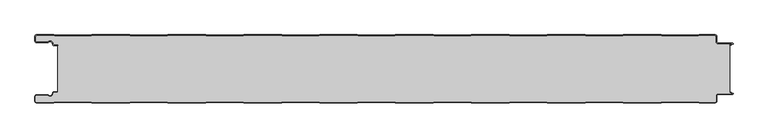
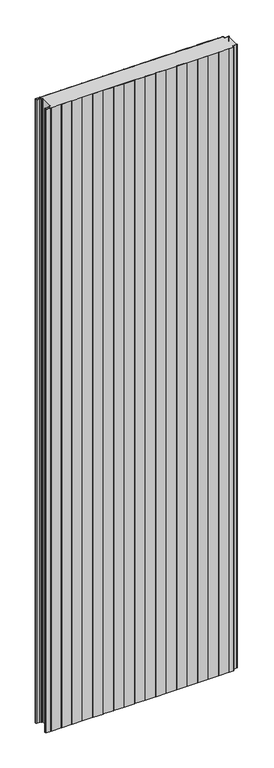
"""IFC4 building model written with IfcOpenShell, lengths in millimetres: plate geometry, ACH_Panel-Frigorífico_PUR-PIR : ACH_Panel-Frigorífico-PIR_100mm."""

from ifc_helpers import new_model, si_unit, point, frame_2d, origin, origin_with_axes, place, context, project, spatial, polyline, circle_curve, trimmed, segment, composite_curve, outline, extrude, source, transform, mapped, element, save


def plate_281635d9(model_context):
    return source(origin(), model_context, "Body", "SweptSolid", [
        extrude(outline(composite_curve([segment(trimmed(circle_curve(frame_2d((-497.49499, -9.0180361)), 2.50501), [point((-497.49499, -11.5230461))], [point((-500.0, -9.0180361))], False, "CARTESIAN"), True, "CONTINUOUS"), segment(polyline([(-500.0, -9.0180361), (-500.0, -2.50501)]), True, "CONTINUOUS"), segment(trimmed(circle_curve(frame_2d((-497.49499, -2.50501)), 2.50501), [point((-500.0, -2.50501))], [point((-497.49499, 0.0))], False, "CARTESIAN"), True, "CONTINUOUS"), segment(polyline([(-497.49499, 0.0), (-472.2103007, 0.0), (-471.028188, -0.6012024), (-417.6391467, -0.6012024), (-416.457034, 0.0), (-360.8776353, 0.0), (-359.6955227, -0.6012024), (-306.3064814, -0.6012024), (-305.1243687, 0.0), (-249.54497, 0.0), (-248.3628573, -0.6012024), (-194.973816, -0.6012024), (-193.7917033, 0.0), (-138.2123047, 0.0), (-137.030192, -0.6012024), (-83.6411507, -0.6012024), (-82.459038, 0.0), (-26.8796393, 0.0), (-25.6975267, -0.6012024), (27.6915146, -0.6012024), (28.8736273, 0.0), (84.453026, 0.0), (85.6351387, -0.6012024), (139.02418, -0.6012024), (140.2062927, 0.0), (195.7856913, 0.0), (196.967804, -0.6012024), (250.3568453, -0.6012024), (251.538958, 0.0), (307.1183566, 0.0), (308.3004693, -0.6012024), (361.6895106, -0.6012024), (362.8716233, 0.0), (418.451022, 0.0), (419.6331347, -0.6012024), (473.022176, -0.6012024), (474.2042886, 0.0), (497.49499, 0.0)]), True, "CONTINUOUS"), segment(trimmed(circle_curve(frame_2d((497.49499, -2.50501)), 2.50501), [point((497.49499, 0.0))], [point((500.0, -2.50501))], False, "CARTESIAN"), True, "CONTINUOUS"), segment(polyline([(500.0, -2.50501), (500.0, -10.0200401)]), True, "CONTINUOUS"), segment(trimmed(circle_curve(frame_2d((502.004008, -10.0200401)), 2.004008), [point((500.0, -10.0200401))], [point((502.004008, -12.0240481))], True, "CARTESIAN"), True, "CONTINUOUS"), segment(polyline([(502.004008, -12.0240481), (523.0460922, -12.0240481)]), True, "CONTINUOUS"), segment(trimmed(circle_curve(frame_2d((523.0460922, -13.0260521)), 1.002004), [point((523.0460922, -12.0240481))], [point((523.5470942, -13.893813))], False, "CARTESIAN"), True, "CONTINUOUS"), segment(polyline([(523.5470942, -13.893813), (519.5390782, -16.2078422), (519.1390782, -15.5150218), (522.183956, -13.7570608)]), True, "CONTINUOUS"), segment(trimmed(circle_curve(frame_2d((521.933956, -13.3240481)), 0.5), [point((522.183956, -13.7570608))], [point((521.933956, -12.8240481))], True, "CARTESIAN"), True, "CONTINUOUS"), segment(polyline([(521.933956, -12.8240481), (502.004008, -12.8240481)]), True, "CONTINUOUS"), segment(trimmed(circle_curve(frame_2d((502.004008, -10.0200401)), 2.804008), [point((502.004008, -12.8240481))], [point((499.2, -10.0200401))], False, "CARTESIAN"), True, "CONTINUOUS"), segment(polyline([(499.2, -10.0200401), (499.2, -2.50501)]), True, "CONTINUOUS"), segment(trimmed(circle_curve(frame_2d((497.49499, -2.50501)), 1.70501), [point((499.2, -2.50501))], [point((497.49499, -0.8))], True, "CARTESIAN"), True, "CONTINUOUS"), segment(polyline([(497.49499, -0.8), (474.396035, -0.8), (473.2139223, -1.4012024), (419.4413883, -1.4012024), (418.2592756, -0.8), (363.0633697, -0.8), (361.881257, -1.4012024), (308.108723, -1.4012024), (306.9266103, -0.8), (251.7307044, -0.8), (250.5485917, -1.4012024), (196.7760576, -1.4012024), (195.5939449, -0.8), (140.398039, -0.8), (139.2159263, -1.4012024), (85.4433923, -1.4012024), (84.2612796, -0.8), (29.0653737, -0.8), (27.883261, -1.4012024), (-25.889273, -1.4012024), (-27.0713857, -0.8), (-82.2672916, -0.8), (-83.4494043, -1.4012024), (-137.2219384, -1.4012024), (-138.4040511, -0.8), (-193.599957, -0.8), (-194.7820696, -1.4012024), (-248.5546037, -1.4012024), (-249.7367164, -0.8), (-304.9326223, -0.8), (-306.114735, -1.4012024), (-359.887269, -1.4012024), (-361.0693817, -0.8), (-416.2652876, -0.8), (-417.4474003, -1.4012024), (-471.2199344, -1.4012024), (-472.4020471, -0.8), (-497.49499, -0.8)]), True, "CONTINUOUS"), segment(trimmed(circle_curve(frame_2d((-497.49499, -2.50501)), 1.70501), [point((-497.49499, -0.8))], [point((-499.2, -2.50501))], True, "CARTESIAN"), True, "CONTINUOUS"), segment(polyline([(-499.2, -2.50501), (-499.2, -9.0180361)]), True, "CONTINUOUS"), segment(trimmed(circle_curve(frame_2d((-497.49499, -9.0180361)), 1.70501), [point((-499.2, -9.0180361))], [point((-497.49499, -10.7230461))], True, "CARTESIAN"), True, "CONTINUOUS"), segment(polyline([(-497.49499, -10.7230461), (-481.8173283, -10.7230461)]), True, "CONTINUOUS"), segment(trimmed(circle_curve(frame_2d((-481.8173283, -9.0180361)), 1.70501), [point((-481.8173283, -10.7230461))], [point((-480.6895701, -10.2967936))], True, "CARTESIAN"), True, "CONTINUOUS"), segment(trimmed(circle_curve(frame_2d((-477.8407481, -13.5270541)), 4.307014), [point((-480.6895701, -10.2967936))], [point((-473.7934788, -12.0539686))], False, "CARTESIAN"), True, "CONTINUOUS"), segment(polyline([(-473.7934788, -12.0539686), (-473.0450711, -14.1102019)]), True, "CONTINUOUS"), segment(trimmed(circle_curve(frame_2d((-471.4428858, -13.5270541)), 1.70501), [point((-473.0450711, -14.1102019))], [point((-471.4428858, -15.2320641))], True, "CARTESIAN"), True, "CONTINUOUS"), segment(polyline([(-471.4428858, -15.2320641), (-466.4328657, -15.2320641), (-466.4328657, -16.0320641), (-471.4428858, -16.0320641)]), True, "CONTINUOUS"), segment(trimmed(circle_curve(frame_2d((-471.4428858, -13.5270541)), 2.50501), [point((-471.4428858, -16.0320641))], [point((-473.7968252, -14.383818))], False, "CARTESIAN"), True, "CONTINUOUS"), segment(polyline([(-473.7968252, -14.383818), (-474.5452329, -12.3275847)]), True, "CONTINUOUS"), segment(trimmed(circle_curve(frame_2d((-477.8407481, -13.5270541)), 3.507014), [point((-474.5452329, -12.3275847))], [point((-480.1604199, -10.8967936))], True, "CARTESIAN"), True, "CONTINUOUS"), segment(trimmed(circle_curve(frame_2d((-481.8173283, -9.0180361)), 2.50501), [point((-480.1604199, -10.8967936))], [point((-481.8173283, -11.5230461))], False, "CARTESIAN"), True, "CONTINUOUS"), segment(polyline([(-481.8173283, -11.5230461), (-497.49499, -11.5230461)]), True, "CONTINUOUS")], self_intersect=False)), origin_with_axes(), (0.0, 0.0, 1.0), 3500.0),
        extrude(outline(composite_curve([segment(trimmed(circle_curve(frame_2d((-471.4428858, -13.5270541)), 1.70501), [point((-471.4428858, -15.2320641))], [point((-473.0450711, -14.1102019))], False, "CARTESIAN"), True, "CONTINUOUS"), segment(polyline([(-473.0450711, -14.1102019), (-473.7934788, -12.0539686)]), True, "CONTINUOUS"), segment(trimmed(circle_curve(frame_2d((-477.8407481, -13.5270541)), 4.307014), [point((-473.7934788, -12.0539686))], [point((-480.6895701, -10.2967936))], True, "CARTESIAN"), True, "CONTINUOUS"), segment(trimmed(circle_curve(frame_2d((-481.8173283, -9.0180361)), 1.70501), [point((-480.6895701, -10.2967936))], [point((-481.8173283, -10.7230461))], False, "CARTESIAN"), True, "CONTINUOUS"), segment(polyline([(-481.8173283, -10.7230461), (-497.49499, -10.7230461)]), True, "CONTINUOUS"), segment(trimmed(circle_curve(frame_2d((-497.49499, -9.0180361)), 1.70501), [point((-497.49499, -10.7230461))], [point((-499.2, -9.0180361))], False, "CARTESIAN"), True, "CONTINUOUS"), segment(polyline([(-499.2, -9.0180361), (-499.2, -2.50501)]), True, "CONTINUOUS"), segment(trimmed(circle_curve(frame_2d((-497.49499, -2.50501)), 1.70501), [point((-499.2, -2.50501))], [point((-497.49499, -0.8))], False, "CARTESIAN"), True, "CONTINUOUS"), segment(polyline([(-497.49499, -0.8), (-472.4020471, -0.8), (-471.2199344, -1.4012024), (-417.4474003, -1.4012024), (-416.2652876, -0.8), (-361.0693817, -0.8), (-359.887269, -1.4012024), (-306.114735, -1.4012024), (-304.9326223, -0.8), (-249.7367164, -0.8), (-248.5546037, -1.4012024), (-194.7820696, -1.4012024), (-193.599957, -0.8), (-138.4040511, -0.8), (-137.2219384, -1.4012024), (-83.4494043, -1.4012024), (-82.2672916, -0.8), (-27.0713857, -0.8), (-25.889273, -1.4012024), (27.883261, -1.4012024), (29.0653737, -0.8), (84.2612796, -0.8), (85.4433923, -1.4012024), (139.2159263, -1.4012024), (140.398039, -0.8), (195.5939449, -0.8), (196.7760576, -1.4012024), (250.5485917, -1.4012024), (251.7307044, -0.8), (306.9266103, -0.8), (308.108723, -1.4012024), (361.881257, -1.4012024), (363.0633697, -0.8), (418.2592756, -0.8), (419.4413883, -1.4012024), (473.2139223, -1.4012024), (474.396035, -0.8), (497.49499, -0.8)]), True, "CONTINUOUS"), segment(trimmed(circle_curve(frame_2d((497.49499, -2.50501)), 1.70501), [point((497.49499, -0.8))], [point((499.2, -2.50501))], False, "CARTESIAN"), True, "CONTINUOUS"), segment(polyline([(499.2, -2.50501), (499.2, -10.0200401)]), True, "CONTINUOUS"), segment(trimmed(circle_curve(frame_2d((502.004008, -10.0200401)), 2.804008), [point((499.2, -10.0200401))], [point((502.004008, -12.8240481))], True, "CARTESIAN"), True, "CONTINUOUS"), segment(polyline([(502.004008, -12.8240481), (521.933956, -12.8240481)]), True, "CONTINUOUS"), segment(trimmed(circle_curve(frame_2d((521.933956, -13.3240481)), 0.5), [point((521.933956, -12.8240481))], [point((522.183956, -13.7570608))], False, "CARTESIAN"), True, "CONTINUOUS"), segment(polyline([(522.183956, -13.7570608), (519.1390782, -15.5150218), (519.1390782, -84.4849782), (522.183956, -86.2429392)]), True, "CONTINUOUS"), segment(trimmed(circle_curve(frame_2d((521.933956, -86.6759519)), 0.5), [point((522.183956, -86.2429392))], [point((521.933956, -87.1759519))], False, "CARTESIAN"), True, "CONTINUOUS"), segment(polyline([(521.933956, -87.1759519), (502.004008, -87.1759519)]), True, "CONTINUOUS"), segment(trimmed(circle_curve(frame_2d((502.004008, -89.9799599)), 2.804008), [point((502.004008, -87.1759519))], [point((499.2, -89.9799599))], True, "CARTESIAN"), True, "CONTINUOUS"), segment(polyline([(499.2, -89.9799599), (499.2, -97.49499)]), True, "CONTINUOUS"), segment(trimmed(circle_curve(frame_2d((497.49499, -97.49499)), 1.70501), [point((499.2, -97.49499))], [point((497.49499, -99.2))], False, "CARTESIAN"), True, "CONTINUOUS"), segment(polyline([(497.49499, -99.2), (474.396035, -99.2), (473.2139223, -98.5987976), (419.4413883, -98.5987976), (418.2592756, -99.2), (363.0633697, -99.2), (361.881257, -98.5987976), (308.108723, -98.5987976), (306.9266103, -99.2), (251.7307044, -99.2), (250.5485917, -98.5987976), (196.7760576, -98.5987976), (195.5939449, -99.2), (140.398039, -99.2), (139.2159263, -98.5987976), (85.4433923, -98.5987976), (84.2612796, -99.2), (29.0653737, -99.2), (27.883261, -98.5987976), (-25.889273, -98.5987976), (-27.0713857, -99.2), (-82.2672916, -99.2), (-83.4494043, -98.5987976), (-137.2219384, -98.5987976), (-138.4040511, -99.2), (-193.599957, -99.2), (-194.7820696, -98.5987976), (-248.5546037, -98.5987976), (-249.7367164, -99.2), (-304.9326223, -99.2), (-306.114735, -98.5987976), (-359.887269, -98.5987976), (-361.0693817, -99.2), (-416.2652876, -99.2), (-417.4474003, -98.5987976), (-471.2199344, -98.5987976), (-472.4020471, -99.2), (-497.49499, -99.2)]), True, "CONTINUOUS"), segment(trimmed(circle_curve(frame_2d((-497.49499, -97.49499)), 1.70501), [point((-497.49499, -99.2))], [point((-499.2, -97.49499))], False, "CARTESIAN"), True, "CONTINUOUS"), segment(polyline([(-499.2, -97.49499), (-499.2, -90.9819639)]), True, "CONTINUOUS"), segment(trimmed(circle_curve(frame_2d((-497.49499, -90.9819639)), 1.70501), [point((-499.2, -90.9819639))], [point((-497.49499, -89.2769539))], False, "CARTESIAN"), True, "CONTINUOUS"), segment(polyline([(-497.49499, -89.2769539), (-481.8173283, -89.2769539)]), True, "CONTINUOUS"), segment(trimmed(circle_curve(frame_2d((-481.8173283, -90.9819639)), 1.70501), [point((-481.8173283, -89.2769539))], [point((-480.6895701, -89.7032064))], False, "CARTESIAN"), True, "CONTINUOUS"), segment(trimmed(circle_curve(frame_2d((-477.8407481, -86.4729459)), 4.307014), [point((-480.6895701, -89.7032064))], [point((-473.7934788, -87.9460314))], True, "CARTESIAN"), True, "CONTINUOUS"), segment(polyline([(-473.7934788, -87.9460314), (-473.0450711, -85.8897981)]), True, "CONTINUOUS"), segment(trimmed(circle_curve(frame_2d((-471.4428858, -86.4729459)), 1.70501), [point((-473.0450711, -85.8897981))], [point((-471.4428858, -84.7679359))], False, "CARTESIAN"), True, "CONTINUOUS"), segment(polyline([(-471.4428858, -84.7679359), (-466.4328657, -84.7679359), (-466.4328657, -15.2320641), (-471.4428858, -15.2320641)]), True, "CONTINUOUS")], self_intersect=False)), origin_with_axes(), (0.0, 0.0, 1.0), 3500.0),
        extrude(outline(composite_curve([segment(polyline([(-497.49499, -88.4769539), (-481.8173283, -88.4769539)]), True, "CONTINUOUS"), segment(trimmed(circle_curve(frame_2d((-481.8173283, -90.9819639)), 2.50501), [point((-481.8173283, -88.4769539))], [point((-480.1604199, -89.1032064))], False, "CARTESIAN"), True, "CONTINUOUS"), segment(trimmed(circle_curve(frame_2d((-477.8407481, -86.4729459)), 3.507014), [point((-480.1604199, -89.1032064))], [point((-474.5452329, -87.6724153))], True, "CARTESIAN"), True, "CONTINUOUS"), segment(polyline([(-474.5452329, -87.6724153), (-473.7968252, -85.616182)]), True, "CONTINUOUS"), segment(trimmed(circle_curve(frame_2d((-471.4428858, -86.4729459)), 2.50501), [point((-473.7968252, -85.616182))], [point((-471.4428858, -83.9679359))], False, "CARTESIAN"), True, "CONTINUOUS"), segment(polyline([(-471.4428858, -83.9679359), (-466.4328657, -83.9679359), (-466.4328657, -84.7679359), (-471.4428858, -84.7679359)]), True, "CONTINUOUS"), segment(trimmed(circle_curve(frame_2d((-471.4428858, -86.4729459)), 1.70501), [point((-471.4428858, -84.7679359))], [point((-473.0450711, -85.8897981))], True, "CARTESIAN"), True, "CONTINUOUS"), segment(polyline([(-473.0450711, -85.8897981), (-473.7934788, -87.9460314)]), True, "CONTINUOUS"), segment(trimmed(circle_curve(frame_2d((-477.8407481, -86.4729459)), 4.307014), [point((-473.7934788, -87.9460314))], [point((-480.6895701, -89.7032064))], False, "CARTESIAN"), True, "CONTINUOUS"), segment(trimmed(circle_curve(frame_2d((-481.8173283, -90.9819639)), 1.70501), [point((-480.6895701, -89.7032064))], [point((-481.8173283, -89.2769539))], True, "CARTESIAN"), True, "CONTINUOUS"), segment(polyline([(-481.8173283, -89.2769539), (-497.49499, -89.2769539)]), True, "CONTINUOUS"), segment(trimmed(circle_curve(frame_2d((-497.49499, -90.9819639)), 1.70501), [point((-497.49499, -89.2769539))], [point((-499.2, -90.9819639))], True, "CARTESIAN"), True, "CONTINUOUS"), segment(polyline([(-499.2, -90.9819639), (-499.2, -97.49499)]), True, "CONTINUOUS"), segment(trimmed(circle_curve(frame_2d((-497.49499, -97.49499)), 1.70501), [point((-499.2, -97.49499))], [point((-497.49499, -99.2))], True, "CARTESIAN"), True, "CONTINUOUS"), segment(polyline([(-497.49499, -99.2), (-472.4020471, -99.2), (-471.2199344, -98.5987976), (-417.4474003, -98.5987976), (-416.2652876, -99.2), (-361.0693817, -99.2), (-359.887269, -98.5987976), (-306.114735, -98.5987976), (-304.9326223, -99.2), (-249.7367164, -99.2), (-248.5546037, -98.5987976), (-194.7820696, -98.5987976), (-193.599957, -99.2), (-138.4040511, -99.2), (-137.2219384, -98.5987976), (-83.4494043, -98.5987976), (-82.2672916, -99.2), (-27.0713857, -99.2), (-25.889273, -98.5987976), (27.883261, -98.5987976), (29.0653737, -99.2), (84.2612796, -99.2), (85.4433923, -98.5987976), (139.2159263, -98.5987976), (140.398039, -99.2), (195.5939449, -99.2), (196.7760576, -98.5987976), (250.5485917, -98.5987976), (251.7307044, -99.2), (306.9266103, -99.2), (308.108723, -98.5987976), (361.881257, -98.5987976), (363.0633697, -99.2), (418.2592756, -99.2), (419.4413883, -98.5987976), (473.2139223, -98.5987976), (474.396035, -99.2), (497.49499, -99.2)]), True, "CONTINUOUS"), segment(trimmed(circle_curve(frame_2d((497.49499, -97.49499)), 1.70501), [point((497.49499, -99.2))], [point((499.2, -97.49499))], True, "CARTESIAN"), True, "CONTINUOUS"), segment(polyline([(499.2, -97.49499), (499.2, -89.9799599)]), True, "CONTINUOUS"), segment(trimmed(circle_curve(frame_2d((502.004008, -89.9799599)), 2.804008), [point((499.2, -89.9799599))], [point((502.004008, -87.1759519))], False, "CARTESIAN"), True, "CONTINUOUS"), segment(polyline([(502.004008, -87.1759519), (521.933956, -87.1759519)]), True, "CONTINUOUS"), segment(trimmed(circle_curve(frame_2d((521.933956, -86.6759519)), 0.5), [point((521.933956, -87.1759519))], [point((522.183956, -86.2429392))], True, "CARTESIAN"), True, "CONTINUOUS"), segment(polyline([(522.183956, -86.2429392), (519.1390782, -84.4849782), (519.5390782, -83.7921578), (523.5470942, -86.106187)]), True, "CONTINUOUS"), segment(trimmed(circle_curve(frame_2d((523.0460922, -86.9739479)), 1.002004), [point((523.5470942, -86.106187))], [point((523.0460922, -87.9759519))], False, "CARTESIAN"), True, "CONTINUOUS"), segment(polyline([(523.0460922, -87.9759519), (502.004008, -87.9759519)]), True, "CONTINUOUS"), segment(trimmed(circle_curve(frame_2d((502.004008, -89.9799599)), 2.004008), [point((502.004008, -87.9759519))], [point((500.0, -89.9799599))], True, "CARTESIAN"), True, "CONTINUOUS"), segment(polyline([(500.0, -89.9799599), (500.0, -97.49499)]), True, "CONTINUOUS"), segment(trimmed(circle_curve(frame_2d((497.49499, -97.49499)), 2.50501), [point((500.0, -97.49499))], [point((497.49499, -100.0))], False, "CARTESIAN"), True, "CONTINUOUS"), segment(polyline([(497.49499, -100.0), (474.2042886, -100.0), (473.022176, -99.3987976), (419.6331347, -99.3987976), (418.451022, -100.0), (362.8716233, -100.0), (361.6895106, -99.3987976), (308.3004693, -99.3987976), (307.1183566, -100.0), (251.538958, -100.0), (250.3568453, -99.3987976), (196.967804, -99.3987976), (195.7856913, -100.0), (140.2062927, -100.0), (139.02418, -99.3987976), (85.6351387, -99.3987976), (84.453026, -100.0), (28.8736273, -100.0), (27.6915146, -99.3987976), (-25.6975267, -99.3987976), (-26.8796393, -100.0), (-82.459038, -100.0), (-83.6411507, -99.3987976), (-137.030192, -99.3987976), (-138.2123047, -100.0), (-193.7917033, -100.0), (-194.973816, -99.3987976), (-248.3628573, -99.3987976), (-249.54497, -100.0), (-305.1243687, -100.0), (-306.3064814, -99.3987976), (-359.6955227, -99.3987976), (-360.8776353, -100.0), (-416.457034, -100.0), (-417.6391467, -99.3987976), (-471.028188, -99.3987976), (-472.2103007, -100.0), (-497.49499, -100.0)]), True, "CONTINUOUS"), segment(trimmed(circle_curve(frame_2d((-497.49499, -97.49499)), 2.50501), [point((-497.49499, -100.0))], [point((-500.0, -97.49499))], False, "CARTESIAN"), True, "CONTINUOUS"), segment(polyline([(-500.0, -97.49499), (-500.0, -90.9819639)]), True, "CONTINUOUS"), segment(trimmed(circle_curve(frame_2d((-497.49499, -90.9819639)), 2.50501), [point((-500.0, -90.9819639))], [point((-497.49499, -88.4769539))], False, "CARTESIAN"), True, "CONTINUOUS")], self_intersect=False)), origin_with_axes(), (0.0, 0.0, 1.0), 3500.0),
    ])


if __name__ == "__main__":
    model = new_model("IFC4")
    model_context = context("Model", 3, world=origin())
    ifc_project = project(units=[si_unit("LENGTHUNIT", "METRE", prefix="MILLI")], contexts=[model_context])
    site = spatial("IfcSite", under=ifc_project)
    building = spatial("IfcBuilding", under=site)
    placement = place(None, origin())
    plate_shape = plate_281635d9(model_context)
    element("IfcPlate", 1, ObjectType="ACH_Panel-Frigorífico_PUR-PIR : ACH_Panel-Frigorífico-PIR_100mm", at=placement, inside=building, context=model_context, shape_type="MappedRepresentation", body=[
        mapped(plate_shape, transform((0.0, 0.0, 0.0), x_axis=(1.0, 0.0, 0.0), y_axis=(0.0, 1.0, 0.0), z_axis=(0.0, 0.0, 1.0))),
    ])
    save(model, "model.ifc")
